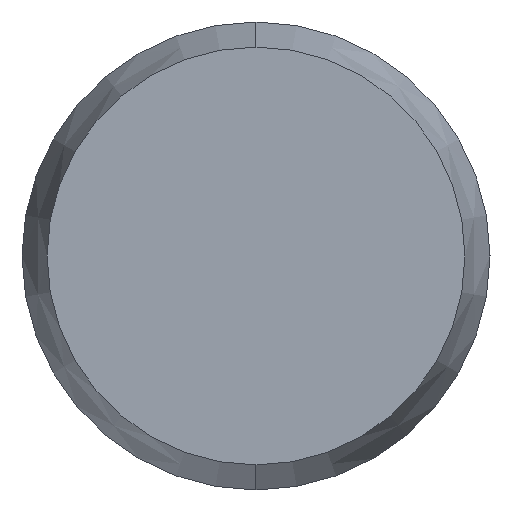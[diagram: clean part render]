
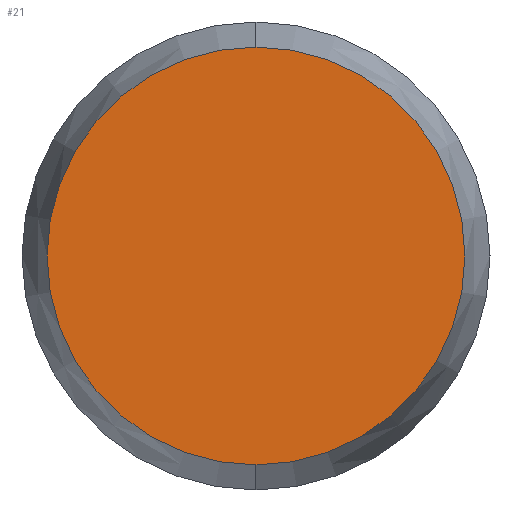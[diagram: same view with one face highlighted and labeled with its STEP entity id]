
A CAD part, left-side view. The second image highlights one B-rep face of the part: STEP entity #21.
In plain terms, the highlighted planar face has unit normal (-1, 0, 0).
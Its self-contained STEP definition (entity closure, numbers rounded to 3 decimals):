
#1 = VERTEX_POINT ( 'NONE', #7 ) ;
#2 = EDGE_CURVE ( 'NONE', #1, #3, #71, .T. ) ;
#3 = VERTEX_POINT ( 'NONE', #66 ) ;
#7 = CARTESIAN_POINT ( 'NONE',  ( -9., 0., 0.893 ) ) ;
#18 = EDGE_CURVE ( 'NONE', #3, #1, #51, .T. ) ;
#21 = ADVANCED_FACE ( 'NONE', ( #43 ), #40, .F. ) ;
#22 = EDGE_LOOP ( 'NONE', ( #72, #73 ) ) ;
#40 = PLANE ( 'NONE',  #42 ) ;
#41 = CARTESIAN_POINT ( 'NONE',  ( -9., 0., 0. ) ) ;
#42 = AXIS2_PLACEMENT_3D ( 'NONE', #41, #131, #130 ) ;
#43 = FACE_OUTER_BOUND ( 'NONE', #22, .T. ) ;
#44 = DIRECTION ( 'NONE',  ( 0., 0., -1. ) ) ;
#45 = DIRECTION ( 'NONE',  ( 1., 0., 0. ) ) ;
#46 = CARTESIAN_POINT ( 'NONE',  ( -9., 0., 0. ) ) ;
#47 = AXIS2_PLACEMENT_3D ( 'NONE', #46, #45, #44 ) ;
#51 = CIRCLE ( 'NONE', #47, 0.893 ) ;
#66 = CARTESIAN_POINT ( 'NONE',  ( -9., 0., -0.893 ) ) ;
#67 = DIRECTION ( 'NONE',  ( 0., 0., -1. ) ) ;
#68 = DIRECTION ( 'NONE',  ( 1., 0., 0. ) ) ;
#69 = CARTESIAN_POINT ( 'NONE',  ( -9., 0., 0. ) ) ;
#70 = AXIS2_PLACEMENT_3D ( 'NONE', #69, #68, #67 ) ;
#71 = CIRCLE ( 'NONE', #70, 0.893 ) ;
#72 = ORIENTED_EDGE ( 'NONE', *, *, #2, .F. ) ;
#73 = ORIENTED_EDGE ( 'NONE', *, *, #18, .F. ) ;
#130 = DIRECTION ( 'NONE',  ( 0., 0., -1. ) ) ;
#131 = DIRECTION ( 'NONE',  ( 1., 0., 0. ) ) ;
